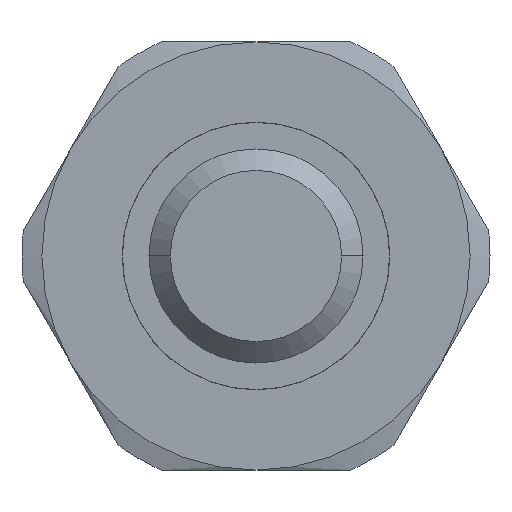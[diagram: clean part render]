
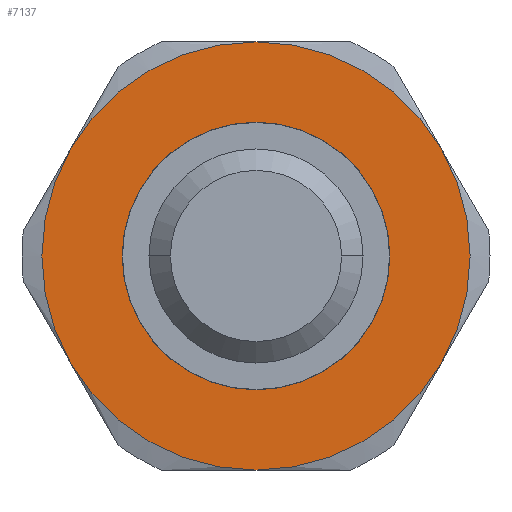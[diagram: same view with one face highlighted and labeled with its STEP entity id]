
A CAD part, left-side view. The second image highlights one B-rep face of the part: STEP entity #7137.
In plain terms, the highlighted free-form (B-spline) face has degree [1, 1] with [2, 2] control points.
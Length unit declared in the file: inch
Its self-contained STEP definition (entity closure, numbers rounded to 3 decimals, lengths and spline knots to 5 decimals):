
#3655=CARTESIAN_POINT('',(-0.5,0.3125,0.0));
#3656=VERTEX_POINT('',#3655);
#3665=CARTESIAN_POINT('',(-0.5,-0.3125,0.));
#3666=VERTEX_POINT('',#3665);
#3667=CARTESIAN_POINT('',(-0.5,0.0,0.0));
#3668=DIRECTION('',(1.0,0.0,0.0));
#3669=DIRECTION('',(0.0,1.0,0.0));
#3670=AXIS2_PLACEMENT_3D('',#3667,#3668,#3669);
#3671=CIRCLE('',#3670,0.3125);
#3672=EDGE_CURVE('',#3666,#3656,#3671,.T.);
#7066=CARTESIAN_POINT('',(-0.5,0.5,0.5));
#7067=CARTESIAN_POINT('',(-0.5,0.5,-0.5));
#7068=CARTESIAN_POINT('',(-0.5,-0.5,0.5));
#7069=CARTESIAN_POINT('',(-0.5,-0.5,-0.5));
#7070=B_SPLINE_SURFACE_WITH_KNOTS('',1,1,((#7066,#7068),(#7067,#7069)),.UNSPECIFIED.,.F.,.F.,.U.,(2,2),(2,2),(0.0,1.),(0.0,1.),.UNSPECIFIED.);
#7071=CARTESIAN_POINT('',(-0.5,-0.43301,0.25));
#7072=VERTEX_POINT('',#7071);
#7073=CARTESIAN_POINT('',(-0.5,-0.43301,-0.25));
#7074=VERTEX_POINT('',#7073);
#7075=CARTESIAN_POINT('',(-0.5,0.0,0.0));
#7076=DIRECTION('',(1.0,0.0,0.0));
#7077=DIRECTION('',(0.0,0.0,-1.0));
#7078=AXIS2_PLACEMENT_3D('',#7075,#7076,#7077);
#7079=CIRCLE('',#7078,0.5);
#7080=EDGE_CURVE('',#7072,#7074,#7079,.T.);
#7081=ORIENTED_EDGE('',*,*,#7080,.F.);
#7082=CARTESIAN_POINT('',(-0.5,0.0,0.5));
#7083=VERTEX_POINT('',#7082);
#7084=CARTESIAN_POINT('',(-0.5,0.0,0.0));
#7085=DIRECTION('',(1.0,0.0,0.0));
#7086=DIRECTION('',(0.0,0.0,-1.0));
#7087=AXIS2_PLACEMENT_3D('',#7084,#7085,#7086);
#7088=CIRCLE('',#7087,0.5);
#7089=EDGE_CURVE('',#7083,#7072,#7088,.T.);
#7090=ORIENTED_EDGE('',*,*,#7089,.F.);
#7091=CARTESIAN_POINT('',(-0.5,0.43301,0.25));
#7092=VERTEX_POINT('',#7091);
#7093=CARTESIAN_POINT('',(-0.5,0.0,0.0));
#7094=DIRECTION('',(1.0,0.0,0.0));
#7095=DIRECTION('',(0.0,0.0,-1.0));
#7096=AXIS2_PLACEMENT_3D('',#7093,#7094,#7095);
#7097=CIRCLE('',#7096,0.5);
#7098=EDGE_CURVE('',#7092,#7083,#7097,.T.);
#7099=ORIENTED_EDGE('',*,*,#7098,.F.);
#7100=CARTESIAN_POINT('',(-0.5,0.43301,-0.25));
#7101=VERTEX_POINT('',#7100);
#7102=CARTESIAN_POINT('',(-0.5,0.0,0.0));
#7103=DIRECTION('',(1.0,0.0,0.0));
#7104=DIRECTION('',(0.0,0.0,-1.0));
#7105=AXIS2_PLACEMENT_3D('',#7102,#7103,#7104);
#7106=CIRCLE('',#7105,0.5);
#7107=EDGE_CURVE('',#7101,#7092,#7106,.T.);
#7108=ORIENTED_EDGE('',*,*,#7107,.F.);
#7109=CARTESIAN_POINT('',(-0.5,0.0,-0.5));
#7110=VERTEX_POINT('',#7109);
#7111=CARTESIAN_POINT('',(-0.5,0.0,0.0));
#7112=DIRECTION('',(1.0,0.0,0.0));
#7113=DIRECTION('',(0.0,0.0,-1.0));
#7114=AXIS2_PLACEMENT_3D('',#7111,#7112,#7113);
#7115=CIRCLE('',#7114,0.5);
#7116=EDGE_CURVE('',#7110,#7101,#7115,.T.);
#7117=ORIENTED_EDGE('',*,*,#7116,.F.);
#7118=CARTESIAN_POINT('',(-0.5,0.0,0.0));
#7119=DIRECTION('',(1.0,0.0,0.0));
#7120=DIRECTION('',(0.0,0.0,-1.0));
#7121=AXIS2_PLACEMENT_3D('',#7118,#7119,#7120);
#7122=CIRCLE('',#7121,0.5);
#7123=EDGE_CURVE('',#7074,#7110,#7122,.T.);
#7124=ORIENTED_EDGE('',*,*,#7123,.F.);
#7125=EDGE_LOOP('',(#7081,#7090,#7099,#7108,#7117,#7124));
#7126=FACE_OUTER_BOUND('',#7125,.T.);
#7127=CARTESIAN_POINT('',(-0.5,0.0,0.0));
#7128=DIRECTION('',(1.0,0.0,0.0));
#7129=DIRECTION('',(0.0,1.0,0.0));
#7130=AXIS2_PLACEMENT_3D('',#7127,#7128,#7129);
#7131=CIRCLE('',#7130,0.3125);
#7132=EDGE_CURVE('',#3656,#3666,#7131,.T.);
#7133=ORIENTED_EDGE('',*,*,#7132,.T.);
#7134=ORIENTED_EDGE('',*,*,#3672,.T.);
#7135=EDGE_LOOP('',(#7133,#7134));
#7136=FACE_BOUND('',#7135,.T.);
#7137=ADVANCED_FACE('',(#7126,#7136),#7070,.T.);
